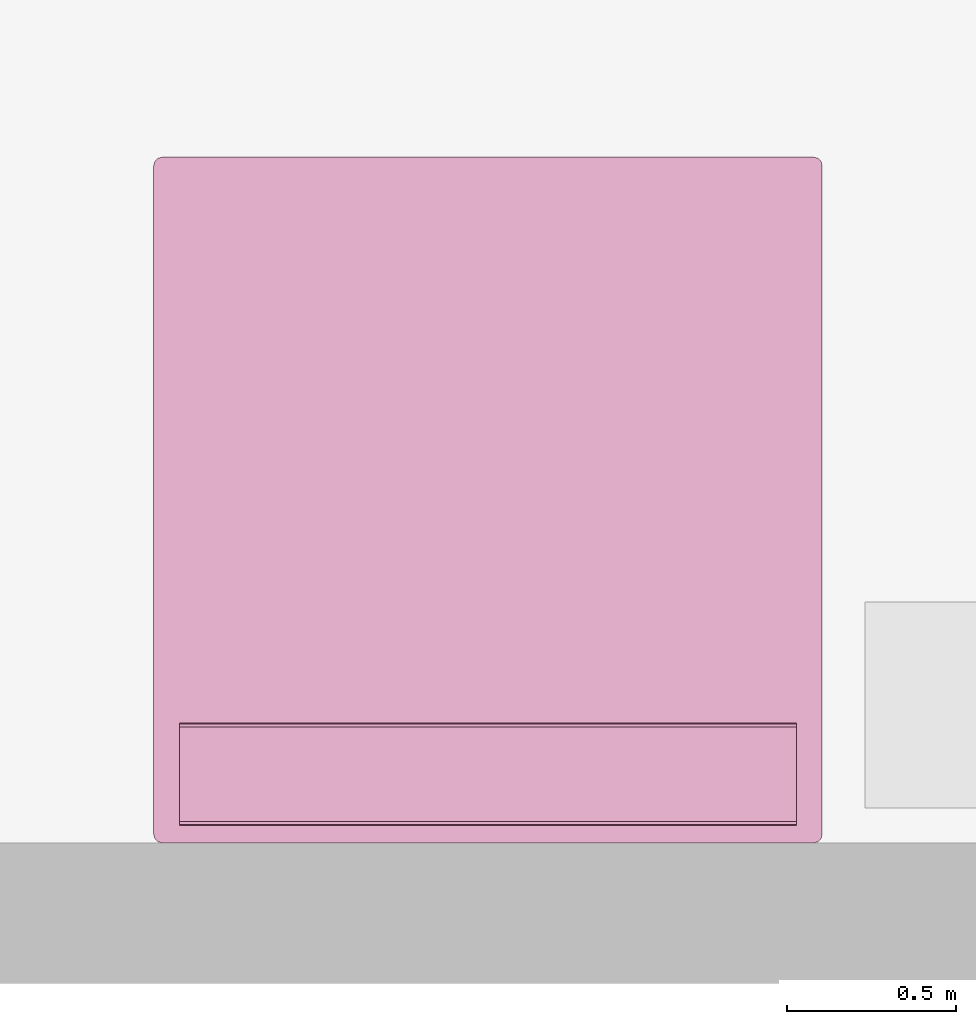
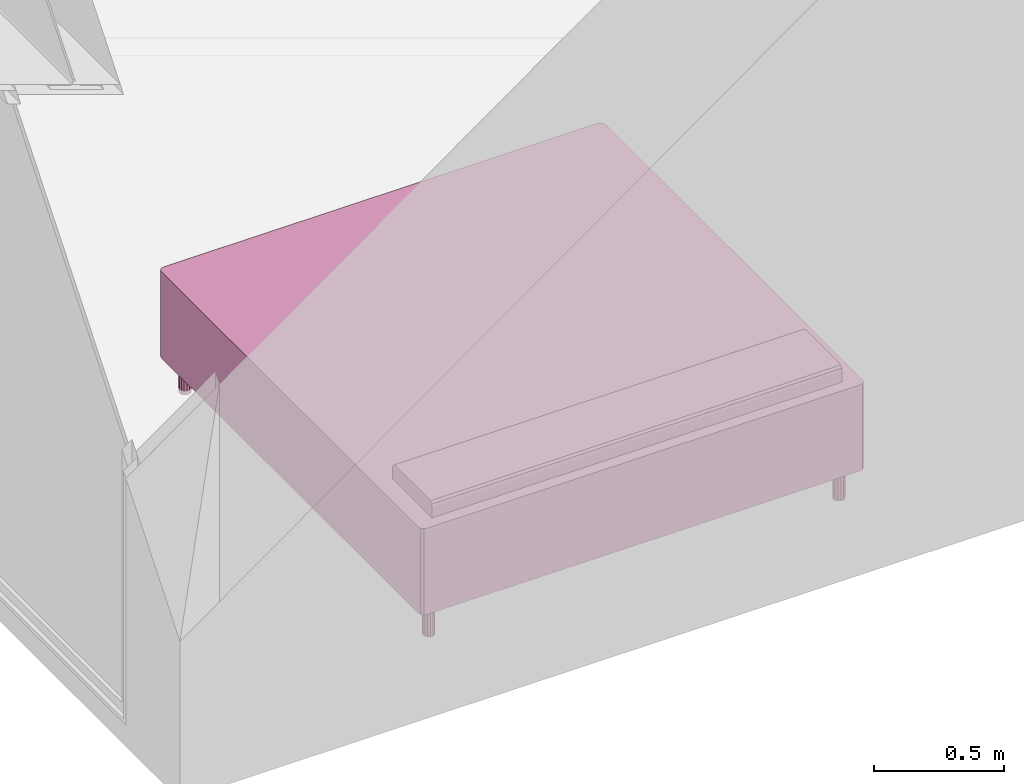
# One storey, part 3 of 8: 1 furnishing.
"""IFC4 building model written with IfcOpenShell, lengths in metres."""

from ifc_helpers import new_model, entity, si_unit, converted_unit, frame, origin, place, context, project, spatial, face_set, surface_model, source, transform, mapped, element, save


model = new_model("IFC4")

# Units and contexts
model_context = context("Model", 3, precision=1e-09, world=origin())
plan_context = context("Plan", 3, precision=1e-09, world=origin())
ifc_project = project(units=[si_unit("LENGTHUNIT", "METRE"), si_unit("AREAUNIT", "SQUARE_METRE"), si_unit("VOLUMEUNIT", "CUBIC_METRE"), converted_unit("PLANEANGLEUNIT", "DEGREE", entity("IfcRatioMeasure", 0.01745329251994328), si_unit("PLANEANGLEUNIT", "RADIAN"), dimensions=[0, 0, 0, 0, 0, 0, 0]), si_unit("TIMEUNIT", "SECOND")], contexts=[model_context, plan_context])

# Site, building, storey, space
site_placement = place(None, origin())
site = spatial("IfcSite", under=ifc_project, at=site_placement, Name="Default", CompositionType="ELEMENT")
building_placement = place(site_placement, origin())
building = spatial("IfcBuilding", under=site, at=building_placement, CompositionType="ELEMENT")
storey_placement = place(building_placement, frame((0.0, 0.0, 3.100000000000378)))
storey = spatial("IfcBuildingStorey", under=building, at=storey_placement, Name="Level 2", CompositionType="ELEMENT", Elevation=3.100000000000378)
space_placement = place(storey_placement, origin())
space = spatial("IfcSpace", under=storey, at=space_placement, Name="B202", CompositionType="ELEMENT", PredefinedType="INTERNAL")

# Furnishing
shared_shape = source(origin(), model_context, "Body", "SurfaceModel", [
    surface_model("IfcFaceBasedSurfaceModel", [(0.001595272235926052, 0.02699527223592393, 0.3556), (0.001595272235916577, 2.008195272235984, 0.3556), (0.004998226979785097, 2.020895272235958, 0.3556), (0.01429527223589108, 2.030192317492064, 0.3556), (0.02699527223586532, 2.033595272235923, 0.3556), (1.957195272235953, 2.033595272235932, 0.3556), (1.969895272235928, 2.030192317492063, 0.3556), (1.979192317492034, 2.020895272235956, 0.3556), (1.982595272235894, 2.008195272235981, 0.3556), (1.982595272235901, 0.02699527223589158, 0.3556), (1.979192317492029, 0.01429527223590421, 0.3556), (1.969895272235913, 0.004998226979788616, 0.3556), (1.957195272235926, 0.001595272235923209, 0.3556), (0.02699527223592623, 0.00159527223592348, 0.3556), (0.01429527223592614, 0.004998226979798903, 0.3556), (0.00499822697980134, 0.01429527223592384, 0.3556), (0.001595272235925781, 0.02699527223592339, 0.1524), (0.001595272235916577, 2.008195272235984, 0.1524), (0.004998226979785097, 2.020895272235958, 0.1524), (0.01429527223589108, 2.030192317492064, 0.1524), (0.02699527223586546, 2.033595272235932, 0.1524), (1.957195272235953, 2.033595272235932, 0.1524), (1.969895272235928, 2.030192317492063, 0.1524), (1.979192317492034, 2.020895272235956, 0.1524), (1.982595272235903, 2.008195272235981, 0.1524), (1.982595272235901, 0.02699527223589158, 0.1524), (1.979192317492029, 0.01429527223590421, 0.1524), (1.969895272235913, 0.004998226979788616, 0.1524), (1.957195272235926, 0.001595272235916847, 0.1524), (0.02699527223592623, 0.00159527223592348, 0.1524), (0.01429527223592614, 0.004998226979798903, 0.1524), (0.00499822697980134, 0.01429527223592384, 0.1524), (0.003559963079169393, 0.01966291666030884, 0.1524000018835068), (0.003296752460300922, 0.02064526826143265, 0.3555999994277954), (0.009646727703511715, 0.009646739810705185, 0.3555999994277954), (0.009646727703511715, 0.009646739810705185, 0.1524000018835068), (0.02064525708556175, 0.003296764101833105, 0.1524000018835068), (0.01966290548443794, 0.003559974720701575, 0.3555999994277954), (1.964527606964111, 0.003559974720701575, 0.1524000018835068), (1.963545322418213, 0.003296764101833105, 0.3555999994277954), (1.974543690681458, 0.009646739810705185, 0.3555999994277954), (1.974543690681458, 0.009646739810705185, 0.1524000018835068), (1.980893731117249, 0.02064526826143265, 0.1524000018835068), (1.98063051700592, 0.01966291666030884, 0.3555999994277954), (1.980893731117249, 2.014545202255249, 0.3555999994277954), (1.980893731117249, 2.014545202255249, 0.1524000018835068), (1.974543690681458, 2.025543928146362, 0.3555999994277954), (1.974543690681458, 2.025543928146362, 0.1524000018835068), (1.963545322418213, 2.031893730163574, 0.1524000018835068), (1.964527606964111, 2.031630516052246, 0.3555999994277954), (0.01966290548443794, 2.031630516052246, 0.1524000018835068), (0.02064525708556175, 2.031893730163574, 0.3555999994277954), (0.009646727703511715, 2.025543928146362, 0.3555999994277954), (0.009646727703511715, 2.025543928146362, 0.1524000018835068), (0.003296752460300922, 2.014545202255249, 0.1524000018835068), (0.003559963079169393, 2.015527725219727, 0.3555999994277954), (0.07779527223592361, 1.677995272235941, 0.5588000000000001), (0.07779527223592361, 1.677995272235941, 0.6096), (0.07779527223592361, 1.681398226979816, 0.6223), (0.07779527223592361, 1.690695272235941, 0.6315970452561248), (0.07779527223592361, 1.703395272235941, 0.6349999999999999), (0.07779527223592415, 1.957395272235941, 0.6349999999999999), (0.07779527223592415, 1.970095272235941, 0.6315970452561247), (0.07779527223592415, 1.979392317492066, 0.6222999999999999), (0.07779527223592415, 1.982795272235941, 0.6095999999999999), (0.07779527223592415, 1.982795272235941, 0.5588000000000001), (1.906395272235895, 1.677995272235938, 0.5588000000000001), (1.906395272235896, 1.982795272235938, 0.5588000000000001), (1.906395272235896, 1.982795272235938, 0.6095999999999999), (1.906395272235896, 1.979392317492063, 0.6222999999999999), (1.906395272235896, 1.970095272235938, 0.6315970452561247), (1.906395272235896, 1.957395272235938, 0.6349999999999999), (1.906395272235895, 1.703395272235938, 0.6349999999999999), (1.906395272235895, 1.690695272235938, 0.6315970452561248), (1.906395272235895, 1.681398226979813, 0.6223), (1.906395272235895, 1.677995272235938, 0.6096), (0.07779525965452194, 1.679741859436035, 0.6161183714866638), (1.906395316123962, 1.679696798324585, 0.6159499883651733), (0.07779525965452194, 1.686046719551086, 0.6269484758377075), (1.906395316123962, 1.686046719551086, 0.6269484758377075), (1.906395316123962, 1.69704532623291, 0.6332985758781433), (0.07779525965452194, 1.696876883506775, 0.6332534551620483), (1.906395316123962, 1.963913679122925, 0.6332534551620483), (0.07779525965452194, 1.96374523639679, 0.6332985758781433), (0.07779525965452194, 1.974743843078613, 0.6269484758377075), (1.906395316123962, 1.974743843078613, 0.6269484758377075), (1.906395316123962, 1.981093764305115, 0.6159499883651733), (0.07779525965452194, 1.981048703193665, 0.6161183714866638), (0.1031952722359, 1.957395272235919, 0.1524), (0.1006798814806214, 1.946374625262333, 0.1524), (0.09363191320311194, 1.937536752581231, 0.1524), (0.08344730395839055, 1.932632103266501, 0.1524), (0.07214324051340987, 1.932632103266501, 0.1524), (0.06195863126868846, 1.937536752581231, 0.1524), (0.05491066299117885, 1.946374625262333, 0.1524), (0.05239527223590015, 1.957395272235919, 0.1524), (0.05491066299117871, 1.968415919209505, 0.1524), (0.06195863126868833, 1.977253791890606, 0.1524), (0.07214324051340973, 1.982158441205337, 0.1524), (0.08344730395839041, 1.982158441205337, 0.1524), (0.0936319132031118, 1.977253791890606, 0.1524), (0.1006798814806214, 1.968415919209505, 0.1524), (1.931795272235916, 1.957395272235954, 0.1524), (1.929279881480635, 1.946374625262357, 0.1524), (1.922231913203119, 1.937536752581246, 0.1524), (1.912047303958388, 1.932632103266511, 0.1524), (1.900743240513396, 1.932632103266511, 0.1524), (1.890558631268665, 1.937536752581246, 0.1524), (1.883510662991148, 1.946374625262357, 0.1524), (1.880995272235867, 1.957395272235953, 0.1524), (1.883510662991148, 1.96841591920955, 0.1524), (1.890558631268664, 1.97725379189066, 0.1524), (1.900743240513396, 1.982158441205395, 0.1524), (1.912047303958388, 1.982158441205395, 0.1524), (1.922231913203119, 1.97725379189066, 0.1524), (1.929279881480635, 1.96841591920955, 0.1524), (1.931795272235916, 0.0777952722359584, 0.1524), (1.929279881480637, 0.06677462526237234, 0.1524), (1.922231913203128, 0.0579367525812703, 0.1524), (1.912047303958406, 0.05303210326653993, 0.1524), (1.900743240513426, 0.05303210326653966, 0.1524), (1.890558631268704, 0.0579367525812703, 0.1524), (1.883510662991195, 0.06677462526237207, 0.1524), (1.880995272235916, 0.07779527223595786, 0.1524), (1.883510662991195, 0.08881591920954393, 0.1524), (1.890558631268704, 0.09765379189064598, 0.1524), (1.900743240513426, 0.1025584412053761, 0.1524), (1.912047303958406, 0.1025584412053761, 0.1524), (1.922231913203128, 0.09765379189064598, 0.1524), (1.929279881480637, 0.08881591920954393, 0.1524), (0.1031952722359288, 0.0777952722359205, 0.1524), (0.10067988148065, 0.06677462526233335, 0.1524), (0.09363191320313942, 0.05793675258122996, 0.1524), (0.08344730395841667, 0.05303210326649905, 0.1524), (0.07214324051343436, 0.05303210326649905, 0.1524), (0.06195863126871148, 0.05793675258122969, 0.1524), (0.05491066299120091, 0.06677462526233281, 0.1524), (0.05239527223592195, 0.0777952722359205, 0.1524), (0.05491066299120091, 0.08881591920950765, 0.1524), (0.06195863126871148, 0.09765379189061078, 0.1524), (0.07214324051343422, 0.102558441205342, 0.1524), (0.08344730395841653, 0.102558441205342, 0.1524), (0.09363191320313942, 0.09765379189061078, 0.1524), (0.1006798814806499, 0.08881591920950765, 0.1524), (0.1031952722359, 1.957395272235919, 0.0), (0.1006798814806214, 1.946374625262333, 0.0), (0.09363191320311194, 1.937536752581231, 0.0), (0.08344730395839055, 1.932632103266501, 0.0), (0.07214324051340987, 1.932632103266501, 0.0), (0.06195863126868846, 1.937536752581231, 0.0), (0.05491066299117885, 1.946374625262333, 0.0), (0.05239527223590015, 1.957395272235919, 0.0), (0.05491066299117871, 1.968415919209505, 0.0), (0.06195863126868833, 1.977253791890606, 0.0), (0.07214324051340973, 1.982158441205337, 0.0), (0.08344730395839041, 1.982158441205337, 0.0), (0.0936319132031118, 1.977253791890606, 0.0), (0.1006798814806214, 1.968415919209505, 0.0), (1.931795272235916, 1.957395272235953, 0.0), (1.929279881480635, 1.946374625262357, 0.0), (1.922231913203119, 1.937536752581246, 0.0), (1.912047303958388, 1.932632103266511, 0.0), (1.900743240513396, 1.932632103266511, 0.0), (1.890558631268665, 1.937536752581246, 0.0), (1.883510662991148, 1.946374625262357, 0.0), (1.880995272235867, 1.957395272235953, 0.0), (1.883510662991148, 1.96841591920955, 0.0), (1.890558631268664, 1.97725379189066, 0.0), (1.900743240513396, 1.982158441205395, 0.0), (1.912047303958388, 1.982158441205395, 0.0), (1.922231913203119, 1.97725379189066, 0.0), (1.929279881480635, 1.96841591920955, 0.0), (1.931795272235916, 0.07779527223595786, 0.0), (1.929279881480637, 0.06677462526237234, 0.0), (1.922231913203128, 0.0579367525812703, 0.0), (1.912047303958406, 0.05303210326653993, 0.0), (1.900743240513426, 0.05303210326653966, 0.0), (1.890558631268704, 0.0579367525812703, 0.0), (1.883510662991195, 0.06677462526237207, 0.0), (1.880995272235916, 0.07779527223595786, 0.0), (1.883510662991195, 0.08881591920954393, 0.0), (1.890558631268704, 0.09765379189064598, 0.0), (1.900743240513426, 0.1025584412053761, 0.0), (1.912047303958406, 0.1025584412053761, 0.0), (1.922231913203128, 0.09765379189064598, 0.0), (1.929279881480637, 0.08881591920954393, 0.0), (0.1031952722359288, 0.07779527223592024, 0.0), (0.10067988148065, 0.06677462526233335, 0.0), (0.09363191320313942, 0.05793675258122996, 0.0), (0.08344730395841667, 0.05303210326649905, 0.0), (0.07214324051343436, 0.05303210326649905, 0.0), (0.06195863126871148, 0.05793675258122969, 0.0), (0.05491066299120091, 0.06677462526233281, 0.0), (0.05239527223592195, 0.0777952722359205, 0.0), (0.05491066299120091, 0.08881591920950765, 0.0), (0.06195863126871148, 0.09765379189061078, 0.0), (0.07214324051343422, 0.102558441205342, 0.0), (0.08344730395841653, 0.102558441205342, 0.0), (0.09363191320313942, 0.09765379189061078, 0.0), (0.1006798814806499, 0.08881591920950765, 0.0), (0.05365297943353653, 1.951884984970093, 0.1524000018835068), (0.05843466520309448, 1.94195568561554, 0.0), (0.05843466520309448, 1.94195568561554, 0.1524000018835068), (0.1020657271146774, 1.952446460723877, 0.1524000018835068), (0.1019376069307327, 1.951884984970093, 0.0), (0.06705092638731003, 1.935084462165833, 0.0), (0.06705092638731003, 1.935084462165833, 0.1524000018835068), (0.05352479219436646, 1.952446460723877, 0.0), (0.07779525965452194, 1.932632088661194, 0.1524000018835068), (0.07779525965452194, 1.932632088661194, 0.0), (0.08853958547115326, 1.935084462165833, 0.0), (0.08853958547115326, 1.935084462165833, 0.1524000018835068), (0.09715592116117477, 1.94195568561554, 0.0), (0.09715592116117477, 1.94195568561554, 0.1524000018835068), (0.1020657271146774, 1.962344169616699, 0.0), (0.1019376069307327, 1.962905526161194, 0.1524000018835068), (0.09715592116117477, 1.972834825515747, 0.0), (0.09715592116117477, 1.972834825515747, 0.1524000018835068), (0.08853958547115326, 1.979706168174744, 0.1524000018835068), (0.08853958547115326, 1.979706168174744, 0.0), (0.07779525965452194, 1.982158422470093, 0.1524000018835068), (0.07779525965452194, 1.982158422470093, 0.0), (0.06705092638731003, 1.979706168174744, 0.1524000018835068), (0.06705092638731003, 1.979706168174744, 0.0), (0.05352479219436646, 1.962344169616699, 0.1524000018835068), (0.05843466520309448, 1.972834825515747, 0.1524000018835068), (0.05843466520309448, 1.972834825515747, 0.0), (0.05365297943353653, 1.962905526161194, 0.0), (1.882253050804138, 1.951884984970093, 0.1524000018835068), (1.88703465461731, 1.94195568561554, 0.1524000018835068), (1.88703465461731, 1.94195568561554, 0.0), (1.930537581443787, 1.951884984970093, 0.0), (1.930665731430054, 1.952446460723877, 0.1524000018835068), (1.895650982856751, 1.935084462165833, 0.0), (1.895650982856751, 1.935084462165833, 0.1524000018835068), (1.882124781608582, 1.952446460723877, 0.0), (1.906395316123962, 1.932632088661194, 0.1524000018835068), (1.906395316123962, 1.932632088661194, 0.0), (1.917139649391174, 1.935084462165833, 0.0), (1.917139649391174, 1.935084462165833, 0.1524000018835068), (1.925755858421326, 1.94195568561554, 0.0), (1.925755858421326, 1.94195568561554, 0.1524000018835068), (1.930665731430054, 1.962344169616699, 0.0), (1.930537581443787, 1.962905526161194, 0.1524000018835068), (1.925755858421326, 1.972834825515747, 0.1524000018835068), (1.925755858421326, 1.972834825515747, 0.0), (1.917139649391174, 1.979706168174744, 0.1524000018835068), (1.917139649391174, 1.979706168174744, 0.0), (1.906395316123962, 1.982158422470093, 0.1524000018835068), (1.906395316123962, 1.982158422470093, 0.0), (1.895650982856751, 1.979706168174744, 0.1524000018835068), (1.895650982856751, 1.979706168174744, 0.0), (1.882124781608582, 1.962344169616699, 0.1524000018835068), (1.88703465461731, 1.972834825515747, 0.0), (1.88703465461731, 1.972834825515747, 0.1524000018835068), (1.882253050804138, 1.962905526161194, 0.0), (1.882253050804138, 0.07228492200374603, 0.1524000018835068), (1.88703465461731, 0.0623556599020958, 0.0), (1.88703465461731, 0.0623556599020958, 0.1524000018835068), (1.930537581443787, 0.07228492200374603, 0.0), (1.930665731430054, 0.0728464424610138, 0.1524000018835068), (1.895650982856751, 0.05548442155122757, 0.1524000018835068), (1.895650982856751, 0.05548442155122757, 0.0), (1.882124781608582, 0.0728464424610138, 0.0), (1.906395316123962, 0.05303210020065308, 0.0), (1.906395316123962, 0.05303210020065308, 0.1524000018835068), (1.917139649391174, 0.05548442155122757, 0.1524000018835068), (1.917139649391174, 0.05548442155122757, 0.0), (1.925755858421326, 0.0623556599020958, 0.0), (1.925755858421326, 0.0623556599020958, 0.1524000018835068), (1.930665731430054, 0.08274409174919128, 0.0), (1.930537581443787, 0.08330561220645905, 0.1524000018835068), (1.925755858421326, 0.09323488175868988, 0.1524000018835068), (1.925755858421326, 0.09323488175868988, 0.0), (1.917139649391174, 0.1001061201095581, 0.0), (1.917139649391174, 0.1001061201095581, 0.1524000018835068), (1.906395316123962, 0.1025584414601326, 0.0), (1.906395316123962, 0.1025584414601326, 0.1524000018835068), (1.895650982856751, 0.1001061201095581, 0.0), (1.895650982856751, 0.1001061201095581, 0.1524000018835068), (1.882124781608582, 0.08274409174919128, 0.1524000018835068), (1.88703465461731, 0.09323488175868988, 0.0), (1.88703465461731, 0.09323488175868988, 0.1524000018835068), (1.882253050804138, 0.08330561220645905, 0.0), (0.05365297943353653, 0.07228492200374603, 0.1524000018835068), (0.05843466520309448, 0.0623556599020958, 0.1524000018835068), (0.05843466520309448, 0.0623556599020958, 0.0), (0.1020657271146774, 0.0728464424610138, 0.1524000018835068), (0.1019376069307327, 0.07228492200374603, 0.0), (0.06705092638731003, 0.05548442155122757, 0.1524000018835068), (0.06705092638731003, 0.05548442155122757, 0.0), (0.05352479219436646, 0.0728464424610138, 0.0), (0.07779525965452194, 0.05303210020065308, 0.0), (0.07779525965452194, 0.05303210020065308, 0.1524000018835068), (0.08853958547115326, 0.05548442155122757, 0.1524000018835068), (0.08853958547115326, 0.05548442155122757, 0.0), (0.09715592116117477, 0.0623556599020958, 0.1524000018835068), (0.09715592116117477, 0.0623556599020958, 0.0), (0.1020657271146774, 0.08274409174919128, 0.0), (0.1019376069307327, 0.08330561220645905, 0.1524000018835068), (0.09715592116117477, 0.09323488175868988, 0.0), (0.09715592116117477, 0.09323488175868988, 0.1524000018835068), (0.08853958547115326, 0.1001061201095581, 0.0), (0.08853958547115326, 0.1001061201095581, 0.1524000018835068), (0.07779525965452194, 0.1025584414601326, 0.0), (0.07779525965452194, 0.1025584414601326, 0.1524000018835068), (0.06705092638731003, 0.1001061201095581, 0.0), (0.06705092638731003, 0.1001061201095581, 0.1524000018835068), (0.05352479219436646, 0.08274409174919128, 0.1524000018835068), (0.05843466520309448, 0.09323488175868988, 0.1524000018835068), (0.05843466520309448, 0.09323488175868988, 0.0), (0.05365297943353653, 0.08330561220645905, 0.0), (0.02699527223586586, 2.033595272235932, 0.5588000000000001), (1.957195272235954, 2.033595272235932, 0.5588000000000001), (1.969895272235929, 2.030192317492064, 0.5588000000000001), (1.979192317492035, 2.020895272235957, 0.5588000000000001), (1.982595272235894, 2.008195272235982, 0.5588000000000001), (1.982595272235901, 0.02699527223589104, 0.5588000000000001), (1.979192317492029, 0.0142952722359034, 0.5588000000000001), (1.969895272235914, 0.004998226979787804, 0.5588000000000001), (1.957195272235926, 0.001595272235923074, 0.5588000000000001), (0.02699527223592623, 0.001595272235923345, 0.5588000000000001), (0.01429527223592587, 0.004998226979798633, 0.5588000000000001), (0.004998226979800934, 0.01429527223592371, 0.5588000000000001), (0.00159527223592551, 0.0269952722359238, 0.5588000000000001), (0.001595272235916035, 2.008195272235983, 0.5588000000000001), (0.004998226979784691, 2.020895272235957, 0.5588000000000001), (0.01429527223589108, 2.030192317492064, 0.5588000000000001), (0.02699527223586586, 2.033595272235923, 0.3556), (1.957195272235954, 2.033595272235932, 0.3556), (1.969895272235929, 2.030192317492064, 0.3556), (1.979192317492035, 2.020895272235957, 0.3556), (1.982595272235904, 2.008195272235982, 0.3556), (1.982595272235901, 0.02699527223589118, 0.3556), (1.979192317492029, 0.0142952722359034, 0.3556), (1.969895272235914, 0.004998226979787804, 0.3556), (1.957195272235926, 0.001595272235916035, 0.3556), (0.02699527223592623, 0.001595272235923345, 0.3556), (0.01429527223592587, 0.004998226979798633, 0.3556), (0.004998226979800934, 0.01429527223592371, 0.3556), (0.001595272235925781, 0.02699527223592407, 0.3556), (0.001595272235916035, 2.008195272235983, 0.3556), (0.004998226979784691, 2.020895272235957, 0.3556), (0.01429527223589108, 2.030192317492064, 0.3556), (0.01966290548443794, 2.031630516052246, 0.3555999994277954), (0.02064525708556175, 2.031893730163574, 0.5588000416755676), (0.009646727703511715, 2.025543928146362, 0.5588000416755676), (0.009646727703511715, 2.025543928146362, 0.3555999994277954), (0.003296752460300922, 2.014545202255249, 0.3555999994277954), (0.003559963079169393, 2.015527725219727, 0.5588000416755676), (0.003559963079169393, 0.01966291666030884, 0.3555999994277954), (0.003296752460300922, 0.02064526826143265, 0.5588000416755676), (0.009646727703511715, 0.009646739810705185, 0.5588000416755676), (0.009646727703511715, 0.009646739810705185, 0.3555999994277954), (0.02064525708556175, 0.003296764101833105, 0.3555999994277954), (0.01966290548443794, 0.003559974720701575, 0.5588000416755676), (1.964527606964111, 0.003559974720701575, 0.3555999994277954), (1.963545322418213, 0.003296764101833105, 0.5588000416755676), (1.974543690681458, 0.009646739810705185, 0.5588000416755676), (1.974543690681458, 0.009646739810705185, 0.3555999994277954), (1.980893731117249, 0.02064526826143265, 0.3555999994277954), (1.98063051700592, 0.01966291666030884, 0.5588000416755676), (1.98063051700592, 2.015527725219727, 0.3555999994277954), (1.980893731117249, 2.014545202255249, 0.5588000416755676), (1.974543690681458, 2.025543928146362, 0.5588000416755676), (1.974543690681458, 2.025543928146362, 0.3555999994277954), (1.963545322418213, 2.031893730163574, 0.3555999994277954), (1.964527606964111, 2.031630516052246, 0.5588000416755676)], [face_set([[[0, 1, 2, 3, 4, 5, 6, 7, 8, 9, 10, 11, 12, 13, 14, 15]], [[16, 17, 18, 19, 20, 21, 22, 23, 24, 25, 26, 27, 28, 29, 30, 31]], [[15, 32, 31]], [[32, 15, 33]], [[33, 0, 16]], [[34, 35, 30, 14]], [[16, 32, 33]], [[36, 29, 13]], [[37, 30, 36]], [[35, 34, 15, 31]], [[30, 37, 14]], [[13, 37, 36]], [[12, 28, 29, 13]], [[11, 38, 27]], [[38, 11, 39]], [[39, 12, 28]], [[40, 41, 26, 10]], [[28, 38, 39]], [[42, 25, 9]], [[43, 26, 42]], [[41, 40, 11, 27]], [[26, 43, 10]], [[9, 43, 42]], [[8, 9, 25, 24]], [[44, 8, 24, 45]], [[44, 45, 23, 7]], [[46, 47, 22, 6]], [[48, 21, 5]], [[5, 49, 48]], [[22, 49, 6]], [[47, 46, 7, 23]], [[49, 22, 48]], [[4, 5, 21, 20]], [[3, 50, 19]], [[50, 3, 51]], [[51, 4, 20]], [[52, 53, 18, 2]], [[20, 50, 51]], [[54, 17, 1]], [[55, 18, 54]], [[53, 52, 3, 19]], [[18, 55, 2]], [[1, 55, 54]], [[0, 1, 17, 16]]]), face_set([[[56, 57, 58, 59, 60, 61, 62, 63, 64, 65]], [[66, 67, 68, 69, 70, 71, 72, 73, 74, 75]], [[57, 56, 66, 75]], [[74, 76, 77]], [[77, 57, 75]], [[57, 77, 76]], [[78, 79, 73, 59]], [[80, 72, 60]], [[60, 81, 80]], [[73, 81, 59]], [[79, 78, 58, 74]], [[81, 73, 80]], [[74, 58, 76]], [[61, 71, 72, 60]], [[62, 82, 70]], [[82, 62, 83]], [[83, 61, 71]], [[84, 85, 69, 63]], [[71, 82, 83]], [[86, 68, 64]], [[87, 69, 86]], [[85, 84, 62, 70]], [[69, 87, 63]], [[64, 87, 86]], [[65, 67, 68, 64]], [[56, 65, 67, 66]]]), face_set([[[88, 89, 90, 91, 92, 93, 94, 95, 96, 97, 98, 99, 100, 101]], [[102, 103, 104, 105, 106, 107, 108, 109, 110, 111, 112, 113, 114, 115]], [[116, 117, 118, 119, 120, 121, 122, 123, 124, 125, 126, 127, 128, 129]], [[130, 131, 132, 133, 134, 135, 136, 137, 138, 139, 140, 141, 142, 143]], [[144, 145, 146, 147, 148, 149, 150, 151, 152, 153, 154, 155, 156, 157]], [[158, 159, 160, 161, 162, 163, 164, 165, 166, 167, 168, 169, 170, 171]], [[172, 173, 174, 175, 176, 177, 178, 179, 180, 181, 182, 183, 184, 185]], [[186, 187, 188, 189, 190, 191, 192, 193, 194, 195, 196, 197, 198, 199]], [[94, 200, 150]], [[201, 149, 202, 94]], [[203, 204, 89]], [[92, 148, 205, 206]], [[150, 200, 207]], [[200, 95, 207]], [[94, 150, 201]], [[206, 205, 149, 93]], [[149, 93, 202]], [[92, 208, 147, 209]], [[95, 151, 207]], [[90, 146, 210, 211]], [[145, 212, 90, 213]], [[147, 91, 211, 210]], [[213, 89, 145]], [[204, 203, 144]], [[212, 146, 90]], [[89, 204, 145]], [[208, 91, 147]], [[92, 209, 148]], [[203, 88, 144]], [[214, 144, 88]], [[215, 214, 88]], [[100, 156, 216, 217]], [[157, 101, 217, 216]], [[218, 219, 155, 99]], [[214, 215, 157]], [[157, 215, 101]], [[100, 156, 219, 218]], [[220, 221, 154, 98]], [[222, 223, 153, 97]], [[151, 95, 224]], [[225, 226, 152, 96]], [[226, 225, 97, 153]], [[151, 224, 227]], [[98, 154, 223, 222]], [[152, 227, 96]], [[221, 220, 99, 155]], [[96, 227, 224]], [[164, 228, 108]], [[108, 229, 163, 230]], [[103, 231, 232]], [[106, 162, 233, 234]], [[235, 228, 164]], [[235, 109, 228]], [[230, 164, 108]], [[234, 233, 163, 107]], [[229, 107, 163]], [[106, 236, 161, 237]], [[235, 165, 109]], [[104, 160, 238, 239]], [[240, 241, 104, 160]], [[241, 240, 159, 103]], [[161, 105, 239, 238]], [[158, 232, 231]], [[159, 231, 103]], [[236, 105, 161]], [[106, 237, 162]], [[158, 102, 232]], [[102, 158, 242]], [[102, 242, 243]], [[244, 245, 170, 114]], [[245, 244, 115, 171]], [[246, 247, 169, 113]], [[171, 243, 242]], [[115, 243, 171]], [[114, 170, 247, 246]], [[248, 249, 168, 112]], [[250, 251, 167, 111]], [[252, 109, 165]], [[110, 166, 253, 254]], [[167, 111, 254, 253]], [[255, 252, 165]], [[112, 168, 251, 250]], [[110, 255, 166]], [[249, 248, 113, 169]], [[252, 255, 110]], [[178, 256, 122]], [[121, 177, 257, 258]], [[117, 259, 260]], [[261, 262, 176, 120]], [[263, 256, 178]], [[263, 123, 256]], [[178, 122, 258, 257]], [[121, 177, 262, 261]], [[264, 175, 265, 120]], [[263, 179, 123]], [[266, 267, 174, 118]], [[268, 269, 118, 174]], [[269, 268, 173, 117]], [[267, 266, 119, 175]], [[172, 260, 259]], [[173, 259, 117]], [[175, 119, 265]], [[176, 264, 120]], [[172, 116, 260]], [[116, 172, 270]], [[116, 270, 271]], [[272, 273, 184, 128]], [[273, 272, 129, 185]], [[127, 183, 274, 275]], [[185, 271, 270]], [[129, 271, 185]], [[275, 274, 184, 128]], [[126, 182, 276, 277]], [[125, 181, 278, 279]], [[280, 123, 179]], [[124, 180, 281, 282]], [[181, 125, 282, 281]], [[283, 280, 179]], [[279, 278, 182, 126]], [[124, 283, 180]], [[183, 127, 277, 276]], [[280, 283, 124]], [[136, 284, 192]], [[285, 286, 191, 135]], [[287, 288, 131]], [[289, 290, 190, 134]], [[192, 284, 291]], [[284, 137, 291]], [[286, 285, 136, 192]], [[135, 191, 290, 289]], [[292, 189, 293, 134]], [[137, 193, 291]], [[294, 295, 188, 132]], [[188, 132, 296, 297]], [[131, 187, 297, 296]], [[295, 294, 133, 189]], [[288, 287, 186]], [[131, 288, 187]], [[189, 133, 293]], [[190, 292, 134]], [[287, 130, 186]], [[298, 186, 130]], [[299, 298, 130]], [[142, 198, 300, 301]], [[199, 143, 301, 300]], [[141, 197, 302, 303]], [[298, 299, 199]], [[199, 299, 143]], [[303, 302, 198, 142]], [[140, 196, 304, 305]], [[139, 195, 306, 307]], [[193, 137, 308]], [[309, 310, 194, 138]], [[310, 309, 139, 195]], [[193, 308, 311]], [[307, 306, 196, 140]], [[194, 311, 138]], [[197, 141, 305, 304]], [[138, 311, 308]]]), face_set([[[312, 313, 314, 315, 316, 317, 318, 319, 320, 321, 322, 323, 324, 325, 326, 327]], [[328, 329, 330, 331, 332, 333, 334, 335, 336, 337, 338, 339, 340, 341, 342, 343]], [[327, 344, 343]], [[344, 327, 345]], [[345, 312, 328]], [[346, 347, 342, 326]], [[328, 344, 345]], [[348, 341, 325]], [[349, 342, 348]], [[347, 346, 327, 343]], [[342, 349, 326]], [[325, 349, 348]], [[324, 325, 341, 340]], [[323, 350, 339]], [[350, 323, 351]], [[351, 324, 340]], [[352, 353, 338, 322]], [[340, 350, 351]], [[354, 337, 321]], [[355, 338, 354]], [[353, 352, 323, 339]], [[338, 355, 322]], [[321, 355, 354]], [[320, 336, 337, 321]], [[319, 356, 335]], [[356, 319, 357]], [[357, 320, 336]], [[358, 359, 334, 318]], [[336, 356, 357]], [[360, 333, 317]], [[361, 334, 360]], [[359, 358, 319, 335]], [[334, 361, 318]], [[317, 361, 360]], [[316, 317, 333, 332]], [[315, 362, 331]], [[362, 315, 363]], [[363, 316, 332]], [[364, 365, 330, 314]], [[332, 362, 363]], [[366, 329, 313]], [[367, 330, 366]], [[365, 364, 315, 331]], [[330, 367, 314]], [[313, 367, 366]], [[312, 313, 329, 328]]])]),
])
furnishing_placement = place(space_placement, frame((3.299595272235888, -15.34940472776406, 0.0), z_axis=(0.0, 0.0, 1.0), x_axis=(-1.0, 0.0, 0.0)))
element("IfcFurnishingElement", 1, at=furnishing_placement, inside=space, Name="M_Bed-Standard:1981 x 2032mm - King:1981 x 2032mm - King", ObjectType="1981 x 2032mm - King", context=model_context, shape_type="MappedRepresentation", body=[
    mapped(shared_shape, transform((0.0, 0.0, 0.0), scale=1.0)),
])

save(model, "model.ifc")
